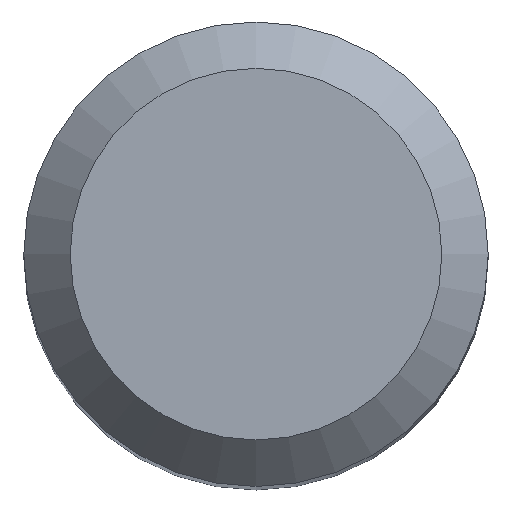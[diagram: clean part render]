
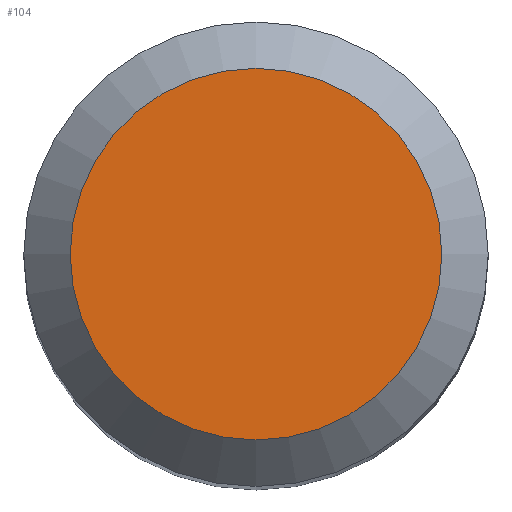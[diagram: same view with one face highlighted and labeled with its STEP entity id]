
A CAD part, top view. The second image highlights one B-rep face of the part: STEP entity #104.
In plain terms, the highlighted planar face has unit normal (0, 0, 1).
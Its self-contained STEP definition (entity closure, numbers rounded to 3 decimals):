
#88=CARTESIAN_POINT('',(4.8,0.0,130.0));
#89=DIRECTION('',(0.0,0.0,1.0));
#90=DIRECTION('',(1.0,0.0,0.0));
#91=AXIS2_PLACEMENT_3D('',#88,#89,#90);
#92=PLANE('',#91);
#93=CARTESIAN_POINT('',(-4.8,0.0,130.0));
#94=VERTEX_POINT('',#93);
#95=CARTESIAN_POINT('',(0.0,0.0,130.0));
#96=DIRECTION('',(0.0,0.0,-1.0));
#97=DIRECTION('',(-1.0,0.0,0.0));
#98=AXIS2_PLACEMENT_3D('',#95,#96,#97);
#99=CIRCLE('',#98,4.8);
#100=EDGE_CURVE('',#94,#94,#99,.T.);
#101=ORIENTED_EDGE('',*,*,#100,.F.);
#102=EDGE_LOOP('',(#101));
#103=FACE_OUTER_BOUND('',#102,.T.);
#104=ADVANCED_FACE('',(#103),#92,.T.);
